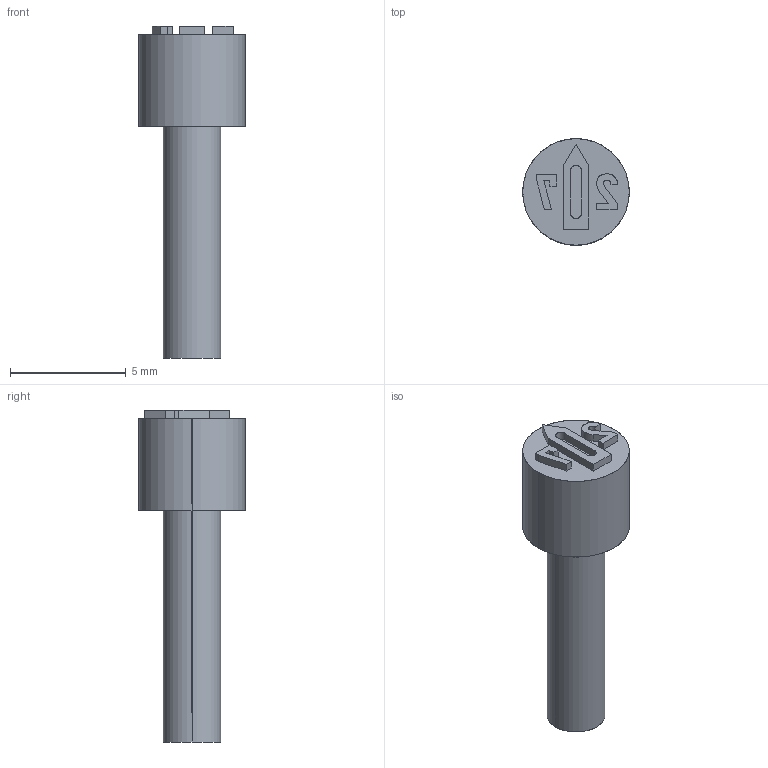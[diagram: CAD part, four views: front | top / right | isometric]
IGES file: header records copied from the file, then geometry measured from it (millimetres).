
Start section: SolidWorks IGES file using analytic representation for surfaces
Global section: file name: C:\temp\GO\Files\DFRP10-27.igs; native system: SolidWorks 2023; preprocessor: SolidWorks 2023; author: andrew.sweeney; date: 260123.161602; units: millimetre
Bounding box: 4.6 x 4.6 x 14.35 mm (x, y, z)
Surface area: 178.5 mm2 (no closed solid volume)
Topology: 0 solids, 0 shells, 46 faces, 460 edges, 460 vertices
Faces by surface type: bspline 40, revolution 6
